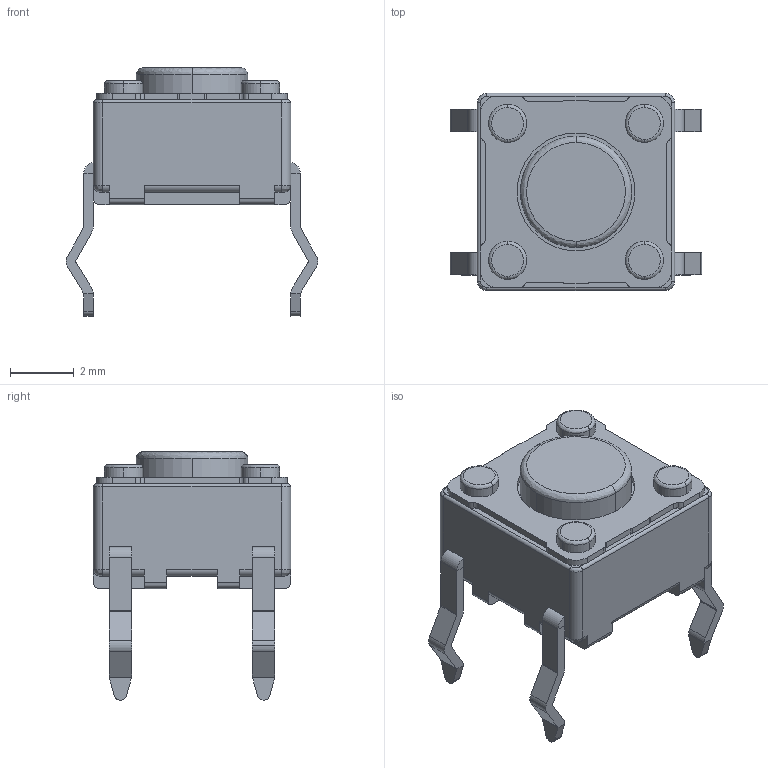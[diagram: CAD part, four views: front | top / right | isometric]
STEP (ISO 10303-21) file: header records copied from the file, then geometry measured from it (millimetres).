
FILE_DESCRIPTION (( 'STEP AP214' ), '1' );
FILE_NAME ('SKHHAL.STEP', '2009-11-19T07:42:33', ( ' ' ), ( ' ' ), 'SwSTEP 2.0', 'SolidWorks 2007', '' );
FILE_SCHEMA (( 'AUTOMOTIVE_DESIGN' ));
Length unit declared in the file: millimetre
Products named in the file (1): SKHHAL
Bounding box: 7.9 x 6.2 x 7.8 mm (x, y, z)
Volume: 134.8 mm3; surface area: 231.4 mm2
Topology: 1 solids, 5 shells, 297 faces, 769 edges, 488 vertices
Faces by surface type: cylinder 143, plane 136, bspline 18
Entity records: 12212 total; most frequent: CARTESIAN_POINT 1887, DIRECTION 1607, ORIENTED_EDGE 1538, EDGE_CURVE 769, AXIS2_PLACEMENT_3D 576, VERTEX_POINT 488, VECTOR 455, LINE 455
